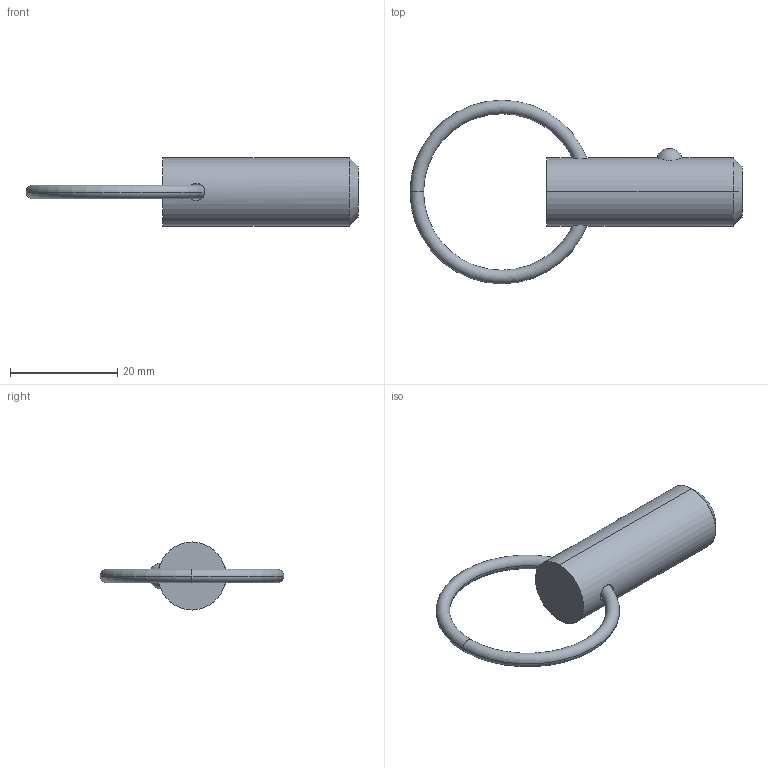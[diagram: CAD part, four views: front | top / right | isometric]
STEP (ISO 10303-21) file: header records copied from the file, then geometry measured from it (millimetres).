
FILE_DESCRIPTION (( 'STEP AP203' ), '1' );
FILE_NAME ('33012.W5005.step', '2024-11-01T14:12:33', ( '' ), ( '' ), 'SwSTEP 2.0', 'SolidWorks 2019', '' );
FILE_SCHEMA (( 'CONFIG_CONTROL_DESIGN' ));
Length unit declared in the file: millimetre
Products named in the file (3): Part1_33012.W5005; 33012.W5005; Part2_33012.W5005
Assembly tree (2 placements, depth 2):
  33012.W5005
    Part1_33012.W5005
    Part2_33012.W5005
Bounding box: 61.99 x 34.29 x 12.7 mm (x, y, z)
Volume: 5000.5 mm3; surface area: 2588.5 mm2
Topology: 2 solids, 2 shells, 16 faces, 31 edges, 18 vertices
Faces by surface type: torus 8, sphere 2, cone 2, cylinder 2, plane 2
Entity records: 885 total; most frequent: CARTESIAN_POINT 242, DIRECTION 88, ORIENTED_EDGE 62, AXIS2_PLACEMENT_3D 42, EDGE_CURVE 31, PERSON_AND_ORGANIZATION 26, CIRCLE 21, CALENDAR_DATE 19
